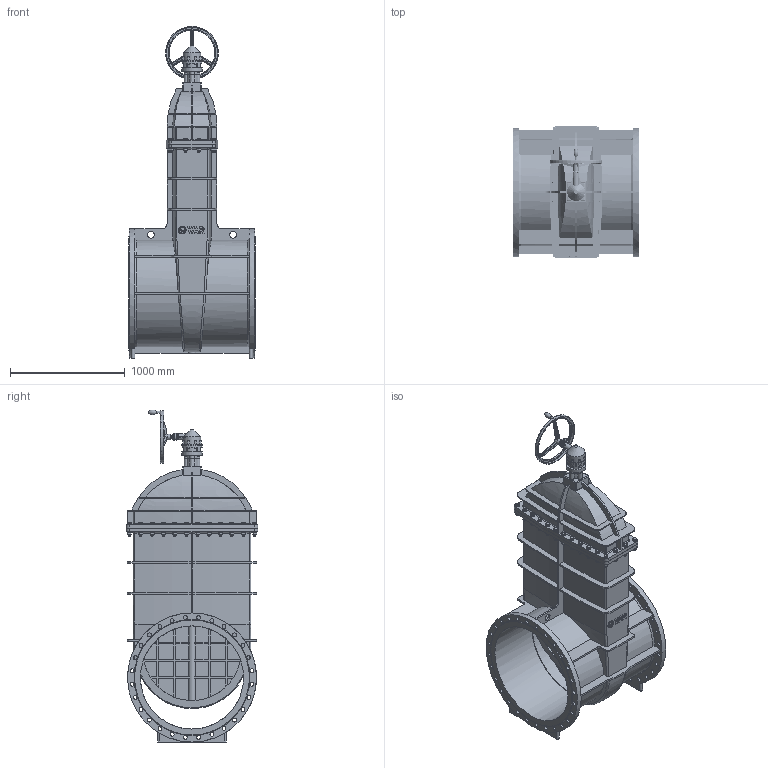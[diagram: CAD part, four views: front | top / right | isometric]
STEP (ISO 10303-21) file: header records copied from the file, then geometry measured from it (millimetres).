
FILE_DESCRIPTION(('STEP AP242'), '1');
FILE_NAME('青溻桄赅', '', ('UNSPECIFIED'), ('UNSPECIFIED'), 'C3D Converter', 'C3D Toolkit', '');
FILE_SCHEMA(('AP242_MANAGED_MODEL_BASED_3D_ENGINEERING_MIM_LF { 1 0 10303 442 1 1 4 }'));
Length unit declared in the file: millimetre
Assembly tree (195 placements, depth 2):
  (unnamed)
    (unnamed)
    (unnamed)
    (unnamed)
    (unnamed)  x2
    (unnamed)
    (unnamed)
    (unnamed)
    (unnamed)
    (unnamed)
    (unnamed)  x28
    (unnamed)  x56
    (unnamed)  x56
    (unnamed)  x28
    (unnamed)
    (unnamed)  x12
    (unnamed)  x4
Bounding box: 1100 x 1145.5 x 2894.32 mm (x, y, z)
Volume: 203498323.9 mm3; surface area: 23592408.2 mm2
Topology: 200 solids, 201 shells, 3439 faces, 7928 edges, 4982 vertices
Faces by surface type: plane 1923, cylinder 773, cone 408, extrusion 171, torus 86, bspline 78
Full cylindrical faces by diameter (mm): 5 x12, 6 x39, 10 x16, 12 x20, 17.294 x28, 18 x8, 20 x33, 22 x140, 30 x28, 34 x121, 40 x1, 50 x1, 60 x4, 65 x5, 67.745 x1, 68 x1, 135.596 x2, 155.031 x1, 174.467 x3, 400 x1, 410 x1, 450 x1, 460 x1, 853.5 x2, 900 x4, 955.8 x4, 993 x1, 1125 x2
Entity records: 77816 total; most frequent: CARTESIAN_POINT 33027, ORIENTED_EDGE 7566, DIRECTION 7276, EDGE_CURVE 3788, VERTEX_POINT 2642, AXIS2_PLACEMENT_3D 2619, EDGE_LOOP 2266, VECTOR 2038
